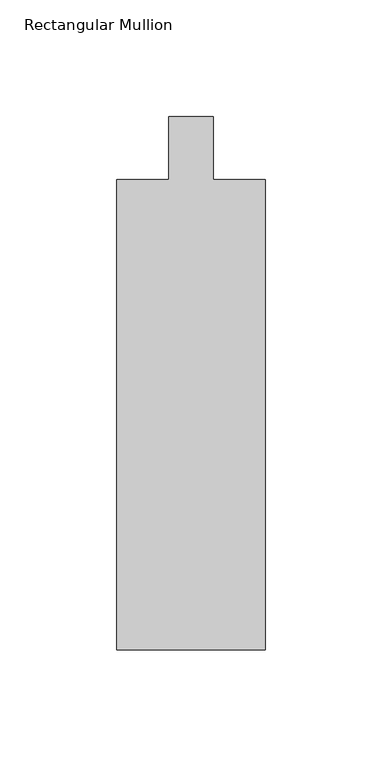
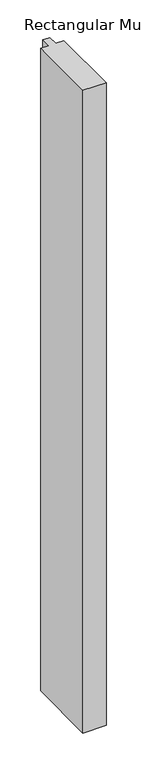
"""IFC4 building model written with IfcOpenShell, lengths in millimetres: member geometry."""

from ifc_helpers import new_model, si_unit, frame, origin, place, context, project, spatial, polyline, outline, extrude, source, transform, mapped, element, save


def rectangular_mullion_a3971e02(model_context):
    return source(origin(), model_context, "Body", "SweptSolid", [
        extrude(outline(polyline([(31.75, -228.6), (-31.75, -228.6), (-31.75, -26.9875), (-9.525, -26.9875), (-9.525, 0.0), (9.525, 0.0), (9.525, -26.9875), (31.75, -26.9875), (31.75, -228.6)])), frame((0.0, 0.0, -1866.9), z_axis=(0.0, 0.0, 1.0), x_axis=(1.0, 0.0, 0.0)), (0.0, 0.0, 1.0), 1866.9),
    ])


if __name__ == "__main__":
    model = new_model("IFC4")
    model_context = context("Model", 3, world=origin())
    ifc_project = project(units=[si_unit("LENGTHUNIT", "METRE", prefix="MILLI")], contexts=[model_context])
    site = spatial("IfcSite", under=ifc_project)
    building = spatial("IfcBuilding", under=site)
    placement = place(None, origin())
    rectangular_mullion_shape = rectangular_mullion_a3971e02(model_context)
    element("IfcMember", 1, ObjectType="Rectangular Mullion : 2 1/2\" x 8\" - Capless", at=placement, inside=building, context=model_context, shape_type="MappedRepresentation", body=[
        mapped(rectangular_mullion_shape, transform((0.0, 0.0, 0.0), x_axis=(1.0, 0.0, 0.0), y_axis=(0.0, 1.0, 0.0), z_axis=(0.0, 0.0, 1.0))),
    ])
    save(model, "model.ifc")
